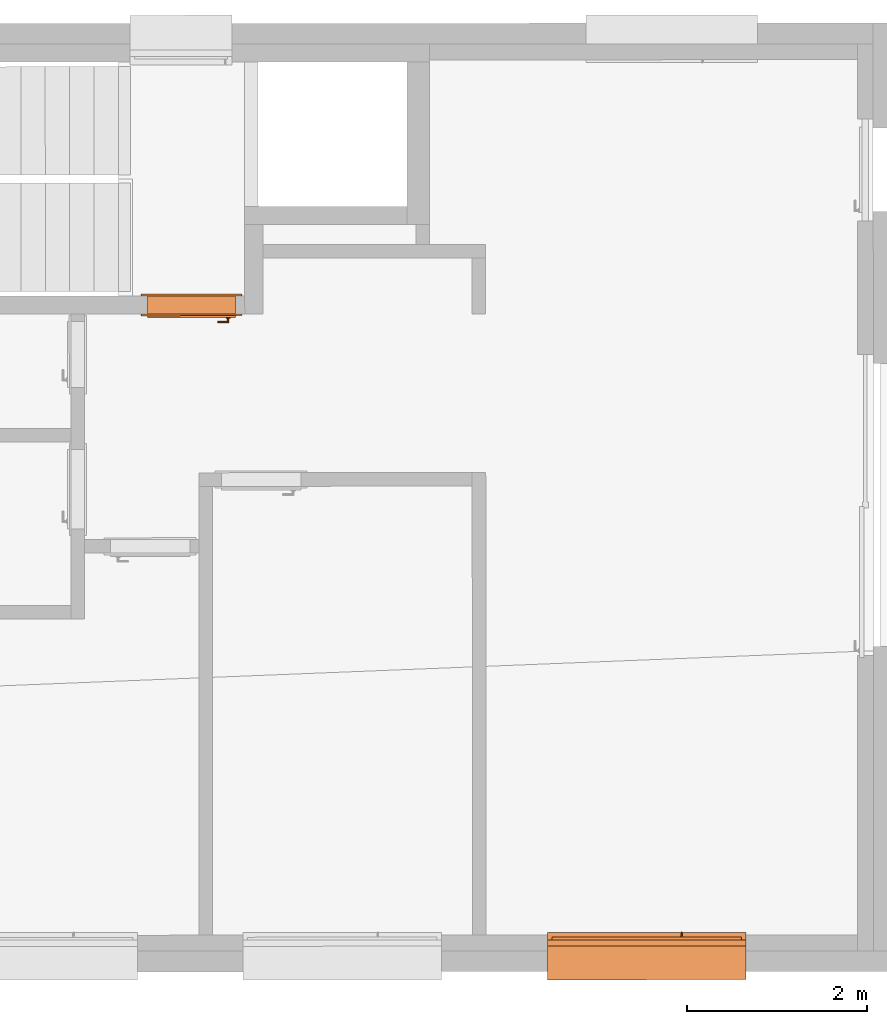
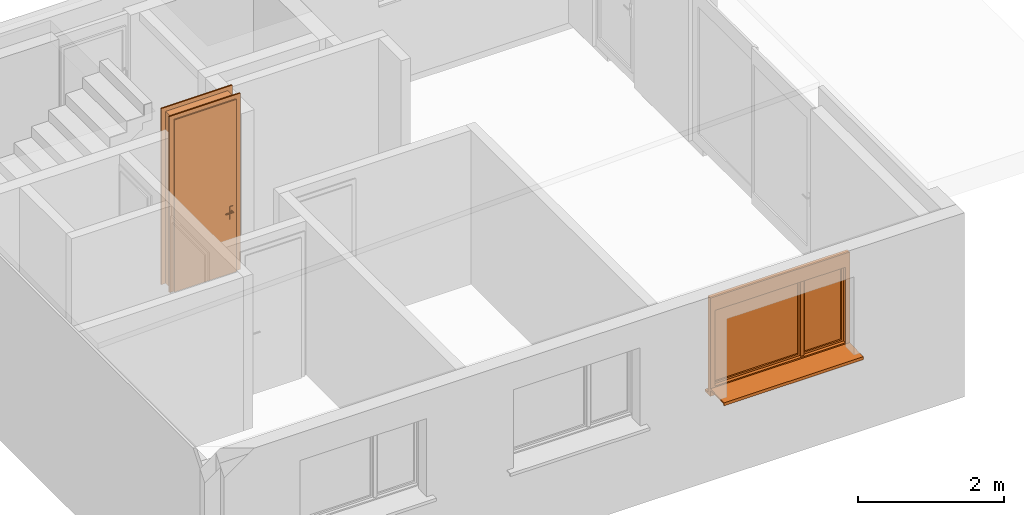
# One storey, part 6 of 8: 2 proxies.
"""IFC2X3 building model written with IfcOpenShell, lengths in metres."""

import ifcopenshell
import ifcopenshell.guid

model = None  # the IFC model being written
_history = None  # IfcOwnerHistory: only IFC2X3 demands one
_inside = {}  # id of a spatial element -> (the spatial element, [elements in it])
_under = {}  # id of a project, library or spatial element -> (it, [spatial elements below it])
_declared = {}  # id of a project -> (the project, [libraries it declares])
_typed = {}  # id of a type object -> (the type object, [elements of that type])
_made_of = {}  # id of a material, layer set ... -> (it, [elements and type objects made of it])


def new_model(schema):
    """Start an empty IFC model of exactly this schema.

    Asked for "IFC4X3", IfcOpenShell would pick the latest addendum, in which some entities
    have other attributes; the version numbers below select the first issue.
    IFC2X3 requires an IfcOwnerHistory on every rooted entity: one is made here for all.
    """
    global model, _history
    if schema == "IFC4X3":
        model = ifcopenshell.file(schema_version=(4, 3, 0, 0))
    else:
        model = ifcopenshell.file(schema=schema)
    _inside.clear()
    _under.clear()
    _declared.clear()
    _typed.clear()
    _made_of.clear()
    _history = None
    if model.schema == "IFC2X3":
        org = make("IfcOrganization", Name="unknown")
        user = make(
            "IfcPersonAndOrganization",
            ThePerson=make("IfcPerson", FamilyName="unknown"),
            TheOrganization=org,
        )
        app = make(
            "IfcApplication",
            ApplicationDeveloper=org,
            Version="unknown",
            ApplicationFullName="unknown",
            ApplicationIdentifier="unknown",
        )
        _history = make(
            "IfcOwnerHistory",
            OwningUser=user,
            OwningApplication=app,
            ChangeAction="ADDED",
            CreationDate=0,
        )
    return model


def make(cls, **values):
    """One entity of the class cls with the attributes given. An attribute that is None is left unset."""
    return model.create_entity(
        cls, **{name: value for name, value in values.items() if value is not None}
    )


def entity(cls, *values):
    """Any entity or typed value of the class cls, its attributes in the order of the schema. None: left unset."""
    e = model.create_entity(cls)
    for i, value in enumerate(values):
        if value is not None:
            e[i] = value
    return e


def rooted(cls, **values):
    """An entity with a GlobalId (a new one), such as an element, a storey or a relation."""
    return make(cls, GlobalId=ifcopenshell.guid.new(), OwnerHistory=_history, **values)


def si_unit(unit_type, name, prefix=None):
    """IfcSIUnit, for example si_unit("LENGTHUNIT", "METRE", prefix="MILLI")."""
    return make("IfcSIUnit", UnitType=unit_type, Prefix=prefix, Name=name)


def converted_unit(unit_type, name, factor, base, dimensions=None, offset=None):
    """IfcConversionBasedUnit, such as the inch: factor (a typed value) times the base unit."""
    return make(
        "IfcConversionBasedUnit"
        if offset is None
        else "IfcConversionBasedUnitWithOffset",
        ConversionOffset=offset,
        Dimensions=None
        if dimensions is None
        else entity("IfcDimensionalExponents", *dimensions),
        UnitType=unit_type,
        Name=name,
        ConversionFactor=make(
            "IfcMeasureWithUnit", ValueComponent=factor, UnitComponent=base
        ),
    )


def derived_unit(unit_type, elements):
    """IfcDerivedUnit: a product of units, each with its exponent."""
    return make(
        "IfcDerivedUnit",
        Elements=[
            make("IfcDerivedUnitElement", Unit=unit, Exponent=power)
            for unit, power in elements
        ],
        UnitType=unit_type,
    )


def assignment(units):
    """IfcUnitAssignment: the units of a project."""
    return None if units is None else make("IfcUnitAssignment", Units=units)


def point(xyz):
    """IfcCartesianPoint."""
    return None if xyz is None else make("IfcCartesianPoint", Coordinates=xyz)


def direction(xyz):
    """IfcDirection."""
    return None if xyz is None else make("IfcDirection", DirectionRatios=xyz)


def frame(location, z_axis=None, x_axis=None):
    """IfcAxis2Placement3D, a coordinate frame: its origin and axes. An axis left out is left unset."""
    return make(
        "IfcAxis2Placement3D",
        Location=point(location),
        Axis=direction(z_axis),
        RefDirection=direction(x_axis),
    )


def origin():
    """The frame at (0, 0, 0) with its axes left unset."""
    return frame((0.0, 0.0, 0.0))


def origin_with_axes():
    """The frame at (0, 0, 0) with the z axis (0, 0, 1) and the x axis (1, 0, 0) written out."""
    return frame((0.0, 0.0, 0.0), z_axis=(0.0, 0.0, 1.0), x_axis=(1.0, 0.0, 0.0))


def place(relative_to, where):
    """IfcLocalPlacement: puts the frame where relative to a parent placement (None: the world)."""
    return make(
        "IfcLocalPlacement", PlacementRelTo=relative_to, RelativePlacement=where
    )


def context(
    kind, dimensions, precision=None, world=None, true_north=None, identifier=None
):
    """IfcGeometricRepresentationContext, for example the 3D "Model" context."""
    return make(
        "IfcGeometricRepresentationContext",
        ContextIdentifier=identifier,
        ContextType=kind,
        CoordinateSpaceDimension=dimensions,
        Precision=precision,
        WorldCoordinateSystem=world,
        TrueNorth=true_north,
    )


def subcontext(parent, identifier, kind, view, scale=None):
    """IfcGeometricRepresentationSubContext, for example "Body" below "Model"."""
    return make(
        "IfcGeometricRepresentationSubContext",
        ContextIdentifier=identifier,
        ContextType=kind,
        ParentContext=parent,
        TargetScale=scale,
        TargetView=view,
    )


def project(units=None, contexts=None):
    """IfcProject with its units and contexts."""
    return rooted(
        "IfcProject",
        Name="project",
        RepresentationContexts=contexts,
        UnitsInContext=assignment(units),
    )


def spatial(cls, under=None, at=None, **own):
    """A site, building, storey or space (cls), placed at a placement, below another one or the project."""
    s = rooted(cls, ObjectPlacement=at, **own)
    if under is not None:
        _under.setdefault(under.id(), (under, []))[1].append(s)
    return s


def faces_of(points, faces, orient=None, outer=None):
    """IfcFace entities. A face is a list of loops; a loop is a list of indices into points, from 0.

    orient and outer hold one flag for each loop. By default every Orientation is true, the
    first loop of a face is its IfcFaceOuterBound and the others are IfcFaceBound.
    """
    made = []
    for i, loops in enumerate(faces):
        bounds = []
        for j, loop in enumerate(loops):
            is_outer = j == 0 if outer is None else outer[i][j]
            bounds.append(
                make(
                    "IfcFaceOuterBound" if is_outer else "IfcFaceBound",
                    Bound=make("IfcPolyLoop", Polygon=[points[k] for k in loop]),
                    Orientation=True if orient is None else orient[i][j],
                )
            )
        made.append(make("IfcFace", Bounds=bounds))
    return made


def closed_shell(faces, orient=None, outer=None):
    """The faces of one IfcClosedShell. faceted_brep and surface_model build it on their shared points."""
    return ("IfcClosedShell", faces, orient, outer)


def open_shell(faces, orient=None, outer=None):
    """The faces of one IfcOpenShell. surface_model builds it on its shared points."""
    return ("IfcOpenShell", faces, orient, outer)


def faceted_brep(points, faces, orient=None, outer=None, voids=None):
    """IfcFacetedBrep: a solid bounded by flat faces; with voids (closed shells), ...WithVoids."""
    shared = [point(p) for p in points]
    hull = make("IfcClosedShell", CfsFaces=faces_of(shared, faces, orient, outer))
    if voids is None:
        return make("IfcFacetedBrep", Outer=hull)
    return make(
        "IfcFacetedBrepWithVoids",
        Outer=hull,
        Voids=[
            make(cls, CfsFaces=faces_of(shared, fs, o, b)) for cls, fs, o, b in voids
        ],
    )


def surface_model(cls, points, shells):
    """IfcFaceBasedSurfaceModel or IfcShellBasedSurfaceModel (cls): surfaces that need not close."""
    shared = [point(p) for p in points]
    made = [make(c, CfsFaces=faces_of(shared, fs, o, b)) for c, fs, o, b in shells]
    if cls == "IfcFaceBasedSurfaceModel":
        return make(cls, FbsmFaces=made)
    return make(cls, SbsmBoundary=made)


def shape(context_of_items, identifier, shape_type, items):
    """IfcShapeRepresentation: the items that make up one representation, for example the "Body"."""
    return make(
        "IfcShapeRepresentation",
        ContextOfItems=context_of_items,
        RepresentationIdentifier=identifier,
        RepresentationType=shape_type,
        Items=items,
    )


def source(mapping_origin, context_of_items, identifier, shape_type, items):
    """IfcRepresentationMap: a shape defined once, which mapped items show again and again."""
    return make(
        "IfcRepresentationMap",
        MappingOrigin=mapping_origin,
        MappedRepresentation=shape(context_of_items, identifier, shape_type, items),
    )


def transform(
    local_origin,
    x_axis=None,
    y_axis=None,
    z_axis=None,
    scale=None,
    scale2=None,
    scale3=None,
    uniform=True,
):
    """IfcCartesianTransformationOperator3D, or its non-uniform kind. x_axis, y_axis, z_axis: its Axis1, 2, 3."""
    if uniform:
        return make(
            "IfcCartesianTransformationOperator3D",
            Axis1=direction(x_axis),
            Axis2=direction(y_axis),
            LocalOrigin=point(local_origin),
            Scale=scale,
            Axis3=direction(z_axis),
        )
    return make(
        "IfcCartesianTransformationOperator3DnonUniform",
        Axis1=direction(x_axis),
        Axis2=direction(y_axis),
        LocalOrigin=point(local_origin),
        Scale=scale,
        Axis3=direction(z_axis),
        Scale2=scale2,
        Scale3=scale3,
    )


def mapped(mapping_source, mapping_target):
    """IfcMappedItem: shows the shape of a source again, moved by a transform."""
    return make(
        "IfcMappedItem", MappingSource=mapping_source, MappingTarget=mapping_target
    )


def made_of(thing, what):
    """Note that an element or type object is made of a material, layer set ...; save() writes the relation."""
    if what is not None:
        _made_of.setdefault(what.id(), (what, []))[1].append(thing)
    return thing


def element(
    cls,
    number,
    at=None,
    inside=None,
    cuts=None,
    type_object=None,
    material=None,
    context=None,
    identifier="Body",
    shape_type=None,
    held_by="IfcProductDefinitionShape",
    body=None,
    shapes=None,
    **own,
):
    """One element of the class cls, such as IfcWall. Its Tag is "e" and its number.

    at: its placement. inside: the storey or other place that contains it. cuts: it is an
    opening in that element (IfcRelVoidsElement). A single representation is given by context,
    identifier, shape_type and body (its items); several are given by shapes. held_by: the class
    of the entity that holds the representations. save() writes the other relations.
    """
    e = rooted(cls, Tag="e%d" % number, ObjectPlacement=at, **own)
    if body is not None:
        shapes = [shape(context, identifier, shape_type, body)]
    if shapes is not None:
        e.Representation = make(held_by, Representations=shapes)
    if inside is not None:
        _inside.setdefault(inside.id(), (inside, []))[1].append(e)
    if cuts is not None:
        rooted(
            "IfcRelVoidsElement", RelatingBuildingElement=cuts, RelatedOpeningElement=e
        )
    if type_object is not None:
        _typed.setdefault(type_object.id(), (type_object, []))[1].append(e)
    return made_of(e, material)


def aggregate(whole, parts):
    """IfcRelAggregates: a whole, such as a stair, and the parts it consists of."""
    return rooted("IfcRelAggregates", RelatingObject=whole, RelatedObjects=parts)


def save(model, path):
    """Write the relations noted so far, then the file.

    IfcRelAggregates (storeys below a building ...), IfcRelContainedInSpatialStructure (elements
    in a storey), IfcRelDefinesByType, IfcRelAssociatesMaterial and IfcRelDeclares: one each for
    every whole, place, type object, material and project.
    """
    for whole, parts in _under.values():
        aggregate(whole, parts)
    for where, things in _inside.values():
        rooted(
            "IfcRelContainedInSpatialStructure",
            RelatedElements=things,
            RelatingStructure=where,
        )
    for kind, things in _typed.values():
        rooted("IfcRelDefinesByType", RelatedObjects=things, RelatingType=kind)
    for what, things in _made_of.values():
        rooted("IfcRelAssociatesMaterial", RelatedObjects=things, RelatingMaterial=what)
    for by, libraries in _declared.values():
        rooted("IfcRelDeclares", RelatingContext=by, RelatedDefinitions=libraries)
    model.write(path)


model = new_model("IFC2X3")

# Units and contexts
model_context = context("Model", 3, precision=1e-05, world=origin(), true_north=direction((0.772621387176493, -0.634867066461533)))
body_context = subcontext(model_context, "Body", "Model", "MODEL_VIEW")
ifc_project = project(units=[si_unit("LENGTHUNIT", "METRE"), si_unit("AREAUNIT", "SQUARE_METRE"), si_unit("VOLUMEUNIT", "CUBIC_METRE"), si_unit("MASSUNIT", "GRAM", prefix="KILO"), converted_unit("PLANEANGLEUNIT", "DEGREE", entity("IfcPlaneAngleMeasure", 0.0174532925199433), si_unit("PLANEANGLEUNIT", "RADIAN"), dimensions=[0, 0, 0, 0, 0, 0, 0]), derived_unit("THERMALTRANSMITTANCEUNIT", [(si_unit("POWERUNIT", "WATT"), 1), (si_unit("THERMODYNAMICTEMPERATUREUNIT", "KELVIN"), -1), (si_unit("LENGTHUNIT", "METRE"), -2)]), derived_unit("VOLUMETRICFLOWRATEUNIT", [(si_unit("LENGTHUNIT", "METRE"), 3), (converted_unit("TIMEUNIT", "hour", entity("IfcTimeMeasure", 3600.0), si_unit("TIMEUNIT", "SECOND"), dimensions=[0, 0, 1, 0, 0, 0, 0]), -1), (si_unit("LENGTHUNIT", "METRE"), -1)])], contexts=[model_context])

# Site, building, storey
site_placement = place(None, origin())
site = spatial("IfcSite", under=ifc_project, at=site_placement, Name="Modelle auf dem Nullpunkt", CompositionType="ELEMENT")
building_placement = place(site_placement, origin())
building = spatial("IfcBuilding", under=site, at=building_placement, Name="I", CompositionType="ELEMENT")
storey_placement = place(building_placement, origin())
storey = spatial("IfcBuildingStorey", under=building, at=storey_placement, Name="2.OG", CompositionType="ELEMENT", Elevation=0.0)

# Proxies
shared_shape_1 = source(origin_with_axes(), body_context, "Body", "Brep", [
    faceted_brep([(0.0700000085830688, 0.240000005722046, 2.87), (0.0700000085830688, 0.240000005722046, 0.0), (0.0900000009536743, 0.240000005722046, 0.0), (0.0900000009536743, 0.240000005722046, 2.87), (0.0700000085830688, 0.0, 0.0), (0.0700000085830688, 0.0, 2.87), (0.0900000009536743, 0.0, 2.87), (0.0900000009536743, 0.0, 0.0)], [[[0, 1, 2, 3]], [[4, 5, 6, 7]], [[1, 0, 5, 4]], [[2, 1, 4, 7]], [[3, 2, 7, 6]], [[0, 3, 6, 5]]], orient=[[False], [False], [False], [False], [False], [False]]),
    faceted_brep([(0.0700000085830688, 0.240000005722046, 2.94), (0.0, 0.240000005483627, 2.94), (0.0, 0.240000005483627, 0.0), (0.0700000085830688, 0.240000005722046, 0.0), (0.0700000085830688, 0.22000000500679, 0.0), (0.0, 0.220000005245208, 0.0), (0.0, 0.220000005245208, 2.94), (0.0700000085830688, 0.22000000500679, 2.94)], [[[0, 1, 2, 3]], [[4, 5, 6, 7]], [[3, 4, 7, 0]], [[2, 5, 4, 3]], [[1, 6, 5, 2]], [[0, 7, 6, 1]]], orient=[[False], [False], [False], [False], [False], [False]]),
    faceted_brep([(0.0700000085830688, 0.0200000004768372, 2.94), (0.0, 0.0200000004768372, 2.94), (0.0, 0.0200000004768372, 0.0), (0.0700000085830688, 0.0200000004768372, 0.0), (0.0700000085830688, 0.0, 0.0), (0.0, 0.0, 0.0), (0.0, 0.0, 2.94), (0.0700000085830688, 0.0, 2.94)], [[[0, 1, 2, 3]], [[4, 5, 6, 7]], [[3, 4, 7, 0]], [[2, 5, 4, 3]], [[1, 6, 5, 2]], [[0, 7, 6, 1]]], orient=[[False], [False], [False], [False], [False], [False]]),
    faceted_brep([(1.03000000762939, 0.240000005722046, 2.87), (1.03000000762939, 0.240000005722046, 0.0), (1.05000000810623, 0.240000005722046, 0.0), (1.05000000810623, 0.240000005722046, 2.87), (1.03000000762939, 0.0, 0.0), (1.03000000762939, 0.0, 2.87), (1.05000000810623, 0.0, 2.87), (1.05000000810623, 0.0, 0.0)], [[[0, 1, 2, 3]], [[4, 5, 6, 7]], [[1, 0, 5, 4]], [[2, 1, 4, 7]], [[3, 2, 7, 6]], [[0, 3, 6, 5]]], orient=[[False], [False], [False], [False], [False], [False]]),
    faceted_brep([(1.05000000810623, 0.240000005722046, 2.94), (1.05000000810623, 0.240000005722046, 0.0), (1.12000000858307, 0.240000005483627, 0.0), (1.12000000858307, 0.240000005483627, 2.94), (1.05000000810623, 0.22000000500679, 0.0), (1.05000000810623, 0.22000000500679, 2.94), (1.12000000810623, 0.220000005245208, 2.94), (1.12000000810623, 0.220000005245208, 0.0)], [[[0, 1, 2, 3]], [[4, 5, 6, 7]], [[1, 0, 5, 4]], [[2, 1, 4, 7]], [[3, 2, 7, 6]], [[0, 3, 6, 5]]], orient=[[False], [False], [False], [False], [False], [False]]),
    faceted_brep([(1.05000000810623, 0.0200000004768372, 2.94), (1.05000000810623, 0.0200000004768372, 0.0), (1.12000000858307, 0.0200000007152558, 0.0), (1.12000000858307, 0.0200000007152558, 2.94), (1.05000000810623, 0.0, 0.0), (1.05000000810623, 0.0, 2.94), (1.12000000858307, 0.0, 2.94), (1.12000000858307, 0.0, 0.0)], [[[0, 1, 2, 3]], [[4, 5, 6, 7]], [[1, 0, 5, 4]], [[2, 1, 4, 7]], [[3, 2, 7, 6]], [[0, 3, 6, 5]]], orient=[[False], [False], [False], [False], [False], [False]]),
    faceted_brep([(0.0900000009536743, 0.240000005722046, 2.87), (0.0900000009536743, 0.240000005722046, 2.85), (1.03000000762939, 0.240000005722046, 2.85), (1.03000000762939, 0.240000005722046, 2.87), (0.0900000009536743, 0.0, 2.85), (0.0900000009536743, 0.0, 2.87), (1.03000000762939, 0.0, 2.87), (1.03000000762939, 0.0, 2.85)], [[[0, 1, 2, 3]], [[4, 5, 6, 7]], [[1, 0, 5, 4]], [[2, 1, 4, 7]], [[3, 2, 7, 6]], [[0, 3, 6, 5]]], orient=[[False], [False], [False], [False], [False], [False]]),
    faceted_brep([(0.0700000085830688, 0.240000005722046, 2.94), (0.0700000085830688, 0.240000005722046, 2.87), (1.05000000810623, 0.240000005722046, 2.87), (1.05000000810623, 0.240000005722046, 2.94), (0.0700000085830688, 0.22000000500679, 2.87), (0.0700000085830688, 0.22000000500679, 2.94), (1.05000000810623, 0.22000000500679, 2.94), (1.05000000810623, 0.22000000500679, 2.87)], [[[0, 1, 2, 3]], [[4, 5, 6, 7]], [[1, 0, 5, 4]], [[2, 1, 4, 7]], [[3, 2, 7, 6]], [[0, 3, 6, 5]]], orient=[[False], [False], [False], [False], [False], [False]]),
    faceted_brep([(0.0700000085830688, 0.0200000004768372, 2.94), (0.0700000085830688, 0.0200000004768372, 2.87), (1.05000000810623, 0.0200000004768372, 2.87), (1.05000000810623, 0.0200000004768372, 2.94), (0.0700000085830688, 0.0, 2.87), (0.0700000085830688, 0.0, 2.94), (1.05000000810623, 0.0, 2.94), (1.05000000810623, 0.0, 2.87)], [[[0, 1, 2, 3]], [[4, 5, 6, 7]], [[1, 0, 5, 4]], [[2, 1, 4, 7]], [[3, 2, 7, 6]], [[0, 3, 6, 5]]], orient=[[False], [False], [False], [False], [False], [False]]),
    faceted_brep([(0.0700000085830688, 0.260000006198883, 2.87), (0.0700000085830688, 0.260000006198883, 0.0), (1.05000000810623, 0.260000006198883, 0.0), (1.05000000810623, 0.260000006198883, 2.87), (0.0700000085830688, 0.22000000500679, 0.0), (0.0700000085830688, 0.22000000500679, 2.87), (1.05000000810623, 0.22000000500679, 2.87), (1.05000000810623, 0.22000000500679, 0.0)], [[[0, 1, 2, 3]], [[4, 5, 6, 7]], [[1, 0, 5, 4]], [[2, 1, 4, 7]], [[3, 2, 7, 6]], [[0, 3, 6, 5]]], orient=[[False], [False], [False], [False], [False], [False]]),
    faceted_brep([(0.130000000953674, 0.220000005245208, 1.125), (0.130000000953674, 0.220000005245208, 0.91), (0.180000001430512, 0.22000000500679, 0.91), (0.180000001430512, 0.22000000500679, 1.125), (0.130000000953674, 0.210000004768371, 0.91), (0.130000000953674, 0.210000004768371, 1.125), (0.180000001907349, 0.21000000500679, 1.125), (0.180000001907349, 0.21000000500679, 0.91)], [[[0, 1, 2, 3]], [[4, 5, 6, 7]], [[1, 0, 5, 4]], [[2, 1, 4, 7]], [[3, 2, 7, 6]], [[0, 3, 6, 5]]], orient=[[False], [False], [False], [False], [False], [False]]),
    faceted_brep([(0.155000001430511, 0.21000000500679, 1.06), (0.150000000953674, 0.210000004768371, 1.05866025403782), (0.146339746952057, 0.21000000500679, 1.055), (0.145000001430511, 0.210000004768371, 1.05), (0.146339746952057, 0.21000000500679, 1.045), (0.150000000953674, 0.210000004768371, 1.04133974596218), (0.155000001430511, 0.21000000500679, 1.04), (0.160000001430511, 0.21000000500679, 1.04133974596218), (0.163660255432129, 0.21000000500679, 1.045), (0.165000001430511, 0.21000000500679, 1.05), (0.163660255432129, 0.21000000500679, 1.055), (0.160000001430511, 0.21000000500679, 1.05866025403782), (0.155000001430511, 0.170000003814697, 1.06), (0.150000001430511, 0.165000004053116, 1.05866025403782), (0.146339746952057, 0.161339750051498, 1.055), (0.145000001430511, 0.160000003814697, 1.05), (0.146339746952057, 0.161339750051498, 1.045), (0.150000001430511, 0.165000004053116, 1.04133974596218), (0.155000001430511, 0.170000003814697, 1.04), (0.160000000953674, 0.175000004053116, 1.04133974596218), (0.163660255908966, 0.178660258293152, 1.045), (0.165000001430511, 0.180000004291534, 1.05), (0.163660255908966, 0.178660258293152, 1.055), (0.160000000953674, 0.175000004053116, 1.05866025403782), (0.270000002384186, 0.170000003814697, 1.06), (0.270000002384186, 0.175000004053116, 1.05866025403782), (0.270000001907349, 0.178660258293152, 1.055), (0.270000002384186, 0.180000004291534, 1.05), (0.270000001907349, 0.178660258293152, 1.045), (0.270000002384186, 0.175000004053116, 1.04133974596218), (0.270000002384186, 0.170000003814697, 1.04), (0.270000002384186, 0.165000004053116, 1.04133974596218), (0.270000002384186, 0.16133974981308, 1.045), (0.270000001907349, 0.160000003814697, 1.05), (0.270000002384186, 0.16133974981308, 1.055), (0.270000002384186, 0.165000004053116, 1.05866025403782)], [[[0, 1, 2, 3, 4, 5, 6, 7, 8, 9, 10, 11]], [[0, 12, 13, 1]], [[1, 13, 14, 2]], [[2, 14, 15, 3]], [[3, 15, 16, 4]], [[4, 16, 17, 5]], [[5, 17, 18, 6]], [[6, 18, 19, 7]], [[7, 19, 20, 8]], [[8, 20, 21, 9]], [[9, 21, 22, 10]], [[10, 22, 23, 11]], [[11, 23, 12, 0]], [[24, 25, 26, 27, 28, 29, 30, 31, 32, 33, 34, 35]], [[12, 24, 35, 13]], [[13, 35, 34, 14]], [[14, 34, 33, 15]], [[15, 33, 32, 16]], [[16, 32, 31, 17]], [[17, 31, 30, 18]], [[18, 30, 29, 19]], [[19, 29, 28, 20]], [[20, 28, 27, 21]], [[21, 27, 26, 22]], [[22, 26, 25, 23]], [[23, 25, 24, 12]]], orient=[[False], [False], [False], [False], [False], [False], [False], [False], [False], [False], [False], [False], [False], [False], [False], [False], [False], [False], [False], [False], [False], [False], [False], [False], [False], [False]]),
    faceted_brep([(0.130000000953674, 0.260000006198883, 1.125), (0.180000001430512, 0.260000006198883, 1.125), (0.180000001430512, 0.260000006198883, 0.91), (0.130000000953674, 0.260000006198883, 0.91), (0.130000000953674, 0.270000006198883, 0.91), (0.180000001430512, 0.270000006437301, 0.91), (0.180000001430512, 0.270000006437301, 1.125), (0.130000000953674, 0.270000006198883, 1.125)], [[[0, 1, 2, 3]], [[4, 5, 6, 7]], [[3, 4, 7, 0]], [[2, 5, 4, 3]], [[1, 6, 5, 2]], [[0, 7, 6, 1]]], orient=[[False], [False], [False], [False], [False], [False]]),
    faceted_brep([(0.155000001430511, 0.270000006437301, 1.06), (0.160000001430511, 0.270000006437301, 1.05866025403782), (0.163660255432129, 0.270000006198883, 1.055), (0.165000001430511, 0.270000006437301, 1.05), (0.163660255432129, 0.270000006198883, 1.045), (0.160000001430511, 0.270000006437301, 1.04133974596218), (0.155000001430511, 0.270000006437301, 1.04), (0.150000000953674, 0.270000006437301, 1.04133974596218), (0.146339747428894, 0.270000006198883, 1.045), (0.145000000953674, 0.270000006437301, 1.05), (0.146339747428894, 0.270000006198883, 1.055), (0.150000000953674, 0.270000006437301, 1.05866025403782), (0.150000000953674, 0.315000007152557, 1.05866025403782), (0.155000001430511, 0.310000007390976, 1.06), (0.146339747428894, 0.318660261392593, 1.055), (0.145000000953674, 0.320000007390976, 1.05), (0.146339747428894, 0.318660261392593, 1.045), (0.150000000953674, 0.315000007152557, 1.04133974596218), (0.155000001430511, 0.310000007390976, 1.04), (0.160000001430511, 0.305000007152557, 1.04133974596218), (0.163660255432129, 0.301339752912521, 1.045), (0.165000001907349, 0.300000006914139, 1.05), (0.163660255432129, 0.301339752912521, 1.055), (0.160000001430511, 0.305000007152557, 1.05866025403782), (0.270000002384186, 0.310000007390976, 1.06), (0.270000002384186, 0.315000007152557, 1.05866025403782), (0.270000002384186, 0.318660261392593, 1.055), (0.270000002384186, 0.320000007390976, 1.05), (0.270000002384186, 0.318660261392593, 1.045), (0.270000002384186, 0.315000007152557, 1.04133974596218), (0.270000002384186, 0.310000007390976, 1.04), (0.270000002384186, 0.305000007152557, 1.04133974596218), (0.270000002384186, 0.301339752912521, 1.045), (0.270000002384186, 0.300000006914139, 1.05), (0.270000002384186, 0.301339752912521, 1.055), (0.270000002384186, 0.305000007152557, 1.05866025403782)], [[[0, 1, 2, 3, 4, 5, 6, 7, 8, 9, 10, 11]], [[0, 11, 12, 13]], [[11, 10, 14, 12]], [[10, 9, 15, 14]], [[9, 8, 16, 15]], [[8, 7, 17, 16]], [[7, 6, 18, 17]], [[6, 5, 19, 18]], [[5, 4, 20, 19]], [[4, 3, 21, 20]], [[3, 2, 22, 21]], [[2, 1, 23, 22]], [[1, 0, 13, 23]], [[24, 25, 26, 27, 28, 29, 30, 31, 32, 33, 34, 35]], [[13, 12, 25, 24]], [[12, 14, 26, 25]], [[14, 15, 27, 26]], [[15, 16, 28, 27]], [[16, 17, 29, 28]], [[17, 18, 30, 29]], [[18, 19, 31, 30]], [[19, 20, 32, 31]], [[20, 21, 33, 32]], [[21, 22, 34, 33]], [[22, 23, 35, 34]], [[23, 13, 24, 35]]], orient=[[False], [False], [False], [False], [False], [False], [False], [False], [False], [False], [False], [False], [False], [False], [False], [False], [False], [False], [False], [False], [False], [False], [False], [False], [False], [False]]),
])
proxy_1_placement = place(storey_placement, frame((34.0329265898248, -0.631736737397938, 441.67), z_axis=(0.0, 0.0, 1.0), x_axis=(-0.999999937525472, -0.000353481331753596, 0.0)))
element("IfcBuildingElementProxy", 1, at=proxy_1_placement, inside=storey, Name="1flg Weiß UZ außen", context=body_context, shape_type="MappedRepresentation", body=[
    mapped(shared_shape_1, transform((0.0, 0.0, 0.0), x_axis=(1.0, 0.0, 0.0), y_axis=(0.0, 1.0, 0.0), z_axis=(0.0, 0.0, 1.0), scale=1.0)),
])
shared_shape_2 = source(origin_with_axes(), body_context, "Body", "SurfaceModel", [
    surface_model("IfcShellBasedSurfaceModel", [(0.0, 0.02, 0.1), (0.0, 0.3725, 0.1), (0.0, 0.3725, 0.13), (0.0, 0.0, 0.12), (0.0, 0.0, 0.07), (0.0, 0.02, 0.07), (2.2, 0.3725, 0.1), (2.2, 0.02, 0.1), (2.2, 0.02, 0.0700000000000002), (2.2, 0.0, 0.0700000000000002), (2.2, 0.0, 0.12), (2.2, 0.3725, 0.13)], [closed_shell([[[0, 1, 2, 3, 4, 5]], [[6, 7, 8, 9, 10, 11]], [[1, 0, 7, 6]], [[2, 1, 6, 11]], [[3, 2, 11, 10]], [[4, 3, 10, 9]], [[5, 4, 9, 8]], [[0, 5, 8, 7]]], orient=[[False], [False], [False], [False], [False], [False], [False], [False]])]),
    surface_model("IfcShellBasedSurfaceModel", [(0.0, 0.525, 0.0), (0.0, 0.525, 0.03), (0.0, 0.4125, 0.03), (0.0, 0.4125, 0.0), (2.2, 0.4125, 0.0), (2.2, 0.4125, 0.0300000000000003), (2.2, 0.525, 0.0300000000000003), (2.2, 0.525, 0.0)], [closed_shell([[[0, 1, 2, 3]], [[4, 5, 6, 7]], [[3, 4, 7, 0]], [[2, 5, 4, 3]], [[1, 6, 5, 2]], [[0, 7, 6, 1]]], orient=[[False], [False], [False], [False], [False], [False]])]),
    surface_model("IfcShellBasedSurfaceModel", [(0.0, 0.4425, 1.64), (0.0, 0.4425, 0.0), (0.07, 0.4425, 0.0), (0.07, 0.4425, 1.64), (0.0, 0.3725, 0.0), (0.0, 0.3725, 1.64), (0.07, 0.3725, 1.64), (0.07, 0.3725, 0.0)], [closed_shell([[[0, 1, 2, 3]], [[4, 5, 6, 7]], [[1, 0, 5, 4]], [[2, 1, 4, 7]], [[3, 2, 7, 6]], [[0, 3, 6, 5]]], orient=[[False], [False], [False], [False], [False], [False]])]),
    surface_model("IfcShellBasedSurfaceModel", [(2.13, 0.4425, 1.64), (2.13, 0.4425, 0.0), (2.2, 0.4425, 0.0), (2.2, 0.4425, 1.64), (2.13, 0.3725, 0.0), (2.13, 0.3725, 1.64), (2.2, 0.3725, 1.64), (2.2, 0.3725, 0.0)], [closed_shell([[[0, 1, 2, 3]], [[4, 5, 6, 7]], [[1, 0, 5, 4]], [[2, 1, 4, 7]], [[3, 2, 7, 6]], [[0, 3, 6, 5]]], orient=[[False], [False], [False], [False], [False], [False]])]),
    surface_model("IfcShellBasedSurfaceModel", [(0.07, 0.4425, 0.15), (0.07, 0.4425, 0.0), (2.13, 0.4425, 0.0), (2.13, 0.4425, 0.15), (0.07, 0.3725, 0.0), (0.07, 0.3725, 0.15), (2.13, 0.3725, 0.15), (2.13, 0.3725, 0.0)], [closed_shell([[[0, 1, 2, 3]], [[4, 5, 6, 7]], [[1, 0, 5, 4]], [[2, 1, 4, 7]], [[3, 2, 7, 6]], [[0, 3, 6, 5]]], orient=[[False], [False], [False], [False], [False], [False]])]),
    surface_model("IfcShellBasedSurfaceModel", [(0.07, 0.4425, 1.64), (0.07, 0.4425, 1.41), (2.13, 0.4425, 1.41), (2.13, 0.4425, 1.64), (0.07, 0.3725, 1.41), (0.07, 0.3725, 1.64), (2.13, 0.3725, 1.64), (2.13, 0.3725, 1.41)], [closed_shell([[[0, 1, 2, 3]], [[4, 5, 6, 7]], [[1, 0, 5, 4]], [[2, 1, 4, 7]], [[3, 2, 7, 6]], [[0, 3, 6, 5]]], orient=[[False], [False], [False], [False], [False], [False]])]),
    surface_model("IfcShellBasedSurfaceModel", [(0.05, 0.4725, 1.43), (0.05, 0.4725, 0.13), (0.1, 0.4725, 0.13), (0.1, 0.4725, 1.43), (0.05, 0.4225, 0.13), (0.05, 0.4225, 1.43), (0.1, 0.4225, 1.43), (0.1, 0.4225, 0.13)], [closed_shell([[[0, 1, 2, 3]], [[4, 5, 6, 7]], [[1, 0, 5, 4]], [[2, 1, 4, 7]], [[3, 2, 7, 6]], [[0, 3, 6, 5]]], orient=[[False], [False], [False], [False], [False], [False]])]),
    surface_model("IfcShellBasedSurfaceModel", [(1.41498387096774, 0.4725, 1.43), (1.41498387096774, 0.4725, 0.13), (1.46498387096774, 0.4725, 0.13), (1.46498387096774, 0.4725, 1.43), (1.41498387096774, 0.4225, 0.13), (1.41498387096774, 0.4225, 1.43), (1.46498387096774, 0.4225, 1.43), (1.46498387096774, 0.4225, 0.13)], [closed_shell([[[0, 1, 2, 3]], [[4, 5, 6, 7]], [[1, 0, 5, 4]], [[2, 1, 4, 7]], [[3, 2, 7, 6]], [[0, 3, 6, 5]]], orient=[[False], [False], [False], [False], [False], [False]])]),
    surface_model("IfcShellBasedSurfaceModel", [(0.1, 0.4725, 0.18), (0.1, 0.4725, 0.13), (1.41498387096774, 0.4725, 0.13), (1.41498387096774, 0.4725, 0.18), (0.1, 0.4225, 0.13), (0.1, 0.4225, 0.18), (1.41498387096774, 0.4225, 0.18), (1.41498387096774, 0.4225, 0.13)], [closed_shell([[[0, 1, 2, 3]], [[4, 5, 6, 7]], [[1, 0, 5, 4]], [[2, 1, 4, 7]], [[3, 2, 7, 6]], [[0, 3, 6, 5]]], orient=[[False], [False], [False], [False], [False], [False]])]),
    surface_model("IfcShellBasedSurfaceModel", [(0.1, 0.4725, 1.43), (0.1, 0.4725, 1.38), (1.41498387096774, 0.4725, 1.38), (1.41498387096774, 0.4725, 1.43), (0.1, 0.4225, 1.38), (0.1, 0.4225, 1.43), (1.41498387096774, 0.4225, 1.43), (1.41498387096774, 0.4225, 1.38)], [closed_shell([[[0, 1, 2, 3]], [[4, 5, 6, 7]], [[1, 0, 5, 4]], [[2, 1, 4, 7]], [[3, 2, 7, 6]], [[0, 3, 6, 5]]], orient=[[False], [False], [False], [False], [False], [False]])]),
    surface_model("IfcShellBasedSurfaceModel", [(1.43998387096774, 0.4225, 1.41), (1.43998387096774, 0.4225, 0.15), (1.48998387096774, 0.4225, 0.15), (1.48998387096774, 0.4225, 1.41), (1.43998387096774, 0.3975, 0.15), (1.43998387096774, 0.3975, 1.41), (1.48998387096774, 0.3975, 1.41), (1.48998387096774, 0.3975, 0.15)], [closed_shell([[[0, 1, 2, 3]], [[4, 5, 6, 7]], [[1, 0, 5, 4]], [[2, 1, 4, 7]], [[3, 2, 7, 6]], [[0, 3, 6, 5]]], orient=[[False], [False], [False], [False], [False], [False]])]),
    surface_model("IfcShellBasedSurfaceModel", [(1.46598387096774, 0.4725, 1.43), (1.46598387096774, 0.4725, 0.13), (1.51598387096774, 0.4725, 0.13), (1.51598387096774, 0.4725, 1.43), (1.46598387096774, 0.4225, 0.13), (1.46598387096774, 0.4225, 1.43), (1.51598387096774, 0.4225, 1.43), (1.51598387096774, 0.4225, 0.13)], [closed_shell([[[0, 1, 2, 3]], [[4, 5, 6, 7]], [[1, 0, 5, 4]], [[2, 1, 4, 7]], [[3, 2, 7, 6]], [[0, 3, 6, 5]]], orient=[[False], [False], [False], [False], [False], [False]])]),
    surface_model("IfcShellBasedSurfaceModel", [(2.1, 0.4725, 1.43), (2.1, 0.4725, 0.13), (2.15, 0.4725, 0.13), (2.15, 0.4725, 1.43), (2.1, 0.4225, 0.13), (2.1, 0.4225, 1.43), (2.15, 0.4225, 1.43), (2.15, 0.4225, 0.13)], [closed_shell([[[0, 1, 2, 3]], [[4, 5, 6, 7]], [[1, 0, 5, 4]], [[2, 1, 4, 7]], [[3, 2, 7, 6]], [[0, 3, 6, 5]]], orient=[[False], [False], [False], [False], [False], [False]])]),
    surface_model("IfcShellBasedSurfaceModel", [(1.51598387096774, 0.4725, 0.18), (1.51598387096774, 0.4725, 0.13), (2.1, 0.4725, 0.13), (2.1, 0.4725, 0.18), (1.51598387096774, 0.4225, 0.13), (1.51598387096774, 0.4225, 0.18), (2.1, 0.4225, 0.18), (2.1, 0.4225, 0.13)], [closed_shell([[[0, 1, 2, 3]], [[4, 5, 6, 7]], [[1, 0, 5, 4]], [[2, 1, 4, 7]], [[3, 2, 7, 6]], [[0, 3, 6, 5]]], orient=[[False], [False], [False], [False], [False], [False]])]),
    surface_model("IfcShellBasedSurfaceModel", [(1.51598387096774, 0.4725, 1.43), (1.51598387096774, 0.4725, 1.38), (2.1, 0.4725, 1.38), (2.1, 0.4725, 1.43), (1.51598387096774, 0.4225, 1.38), (1.51598387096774, 0.4225, 1.43), (2.1, 0.4225, 1.43), (2.1, 0.4225, 1.38)], [closed_shell([[[0, 1, 2, 3]], [[4, 5, 6, 7]], [[1, 0, 5, 4]], [[2, 1, 4, 7]], [[3, 2, 7, 6]], [[0, 3, 6, 5]]], orient=[[False], [False], [False], [False], [False], [False]])]),
    surface_model("IfcShellBasedSurfaceModel", [(1.47848387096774, 0.4725, 0.75), (1.50348387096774, 0.4725, 0.75), (1.50348387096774, 0.4725, 0.71), (1.47848387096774, 0.4725, 0.71), (1.47848387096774, 0.4825, 0.71), (1.50348387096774, 0.4825, 0.71), (1.50348387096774, 0.4825, 0.75), (1.47848387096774, 0.4825, 0.75)], [closed_shell([[[0, 1, 2, 3]], [[4, 5, 6, 7]], [[3, 4, 7, 0]], [[2, 5, 4, 3]], [[1, 6, 5, 2]], [[0, 7, 6, 1]]], orient=[[False], [False], [False], [False], [False], [False]])]),
    surface_model("IfcShellBasedSurfaceModel", [(1.50098387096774, 0.4825, 0.73), (1.49964412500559, 0.4825, 0.725), (1.49598387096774, 0.4825, 0.721339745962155), (1.49098387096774, 0.4825, 0.72), (1.48598387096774, 0.4825, 0.721339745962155), (1.4823236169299, 0.4825, 0.725), (1.48098387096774, 0.4825, 0.73), (1.4823236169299, 0.4825, 0.735), (1.48598387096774, 0.4825, 0.738660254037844), (1.49098387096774, 0.4825, 0.74), (1.49598387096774, 0.4825, 0.738660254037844), (1.49964412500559, 0.4825, 0.735), (1.49964412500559, 0.5275, 0.735), (1.50098387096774, 0.5225, 0.73), (1.49598387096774, 0.531160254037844, 0.738660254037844), (1.49098387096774, 0.5325, 0.74), (1.48598387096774, 0.531160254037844, 0.738660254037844), (1.4823236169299, 0.5275, 0.735), (1.48098387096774, 0.5225, 0.73), (1.4823236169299, 0.5175, 0.725), (1.48598387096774, 0.513839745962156, 0.721339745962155), (1.49098387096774, 0.5125, 0.72), (1.49598387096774, 0.513839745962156, 0.721339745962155), (1.49964412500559, 0.5175, 0.725), (1.50098387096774, 0.5225, 0.615), (1.49964412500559, 0.5275, 0.615), (1.49598387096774, 0.531160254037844, 0.615), (1.49098387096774, 0.5325, 0.615), (1.48598387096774, 0.531160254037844, 0.615), (1.4823236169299, 0.5275, 0.615), (1.48098387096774, 0.5225, 0.615), (1.4823236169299, 0.5175, 0.615), (1.48598387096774, 0.513839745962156, 0.615), (1.49098387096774, 0.5125, 0.615), (1.49598387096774, 0.513839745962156, 0.615), (1.49964412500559, 0.5175, 0.615)], [closed_shell([[[0, 1, 2, 3, 4, 5, 6, 7, 8, 9, 10, 11]], [[0, 11, 12, 13]], [[11, 10, 14, 12]], [[10, 9, 15, 14]], [[9, 8, 16, 15]], [[8, 7, 17, 16]], [[7, 6, 18, 17]], [[6, 5, 19, 18]], [[5, 4, 20, 19]], [[4, 3, 21, 20]], [[3, 2, 22, 21]], [[2, 1, 23, 22]], [[1, 0, 13, 23]], [[24, 25, 26, 27, 28, 29, 30, 31, 32, 33, 34, 35]], [[13, 12, 25, 24]], [[12, 14, 26, 25]], [[14, 15, 27, 26]], [[15, 16, 28, 27]], [[16, 17, 29, 28]], [[17, 18, 30, 29]], [[18, 19, 31, 30]], [[19, 20, 32, 31]], [[20, 21, 33, 32]], [[21, 22, 34, 33]], [[22, 23, 35, 34]], [[23, 13, 24, 35]]], orient=[[False], [False], [False], [False], [False], [False], [False], [False], [False], [False], [False], [False], [False], [False], [False], [False], [False], [False], [False], [False], [False], [False], [False], [False], [False], [False]])]),
    surface_model("IfcShellBasedSurfaceModel", [(0.1, 0.4475, 0.18), (1.41498387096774, 0.4475, 0.18), (1.41498387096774, 0.4475, 1.38), (0.1, 0.4475, 1.38)], [open_shell([[[0, 1, 2, 3]]], orient=[[False]])]),
    surface_model("IfcShellBasedSurfaceModel", [(1.51598387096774, 0.4475, 0.18), (2.1, 0.4475, 0.18), (2.1, 0.4475, 1.38), (1.51598387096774, 0.4475, 1.38)], [open_shell([[[0, 1, 2, 3]]], orient=[[False]])]),
])
proxy_2_placement = place(storey_placement, frame((37.4156128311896, -8.23054149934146, 442.6), z_axis=(0.0, 0.0, 0.999999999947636), x_axis=(0.999999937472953, 0.00035348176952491, 0.0)))
element("IfcBuildingElementProxy", 2, at=proxy_2_placement, inside=storey, Name="2flg Weiß Stulp", context=body_context, shape_type="MappedRepresentation", body=[
    mapped(shared_shape_2, transform((0.0, 0.0, 0.0), x_axis=(1.0, 0.0, 0.0), y_axis=(0.0, 1.0, 0.0), z_axis=(0.0, 0.0, 1.0), scale=0.999999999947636)),
])

save(model, "model.ifc")
